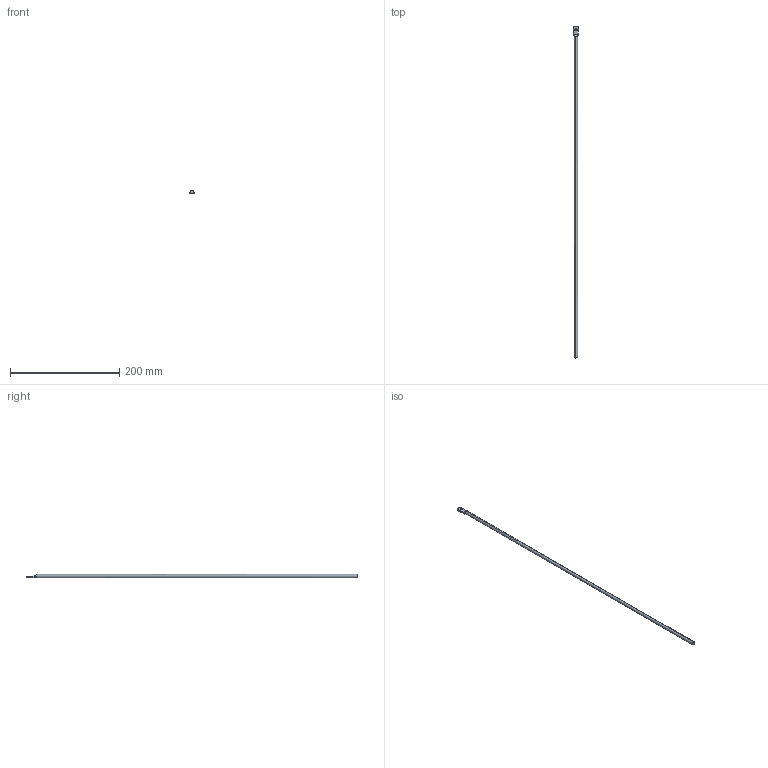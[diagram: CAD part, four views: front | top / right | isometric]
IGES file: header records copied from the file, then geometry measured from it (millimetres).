
Start section: SolidWorks IGES FILE using analytic representation for surfaces
Global section: file name: \\Ls-wvld1d\share\シブタニ\3D設計\ハンドル\EB-150-6-600\EB-150-6-600.IGS; native system: SolidWorks 2003 by SolidWorks Corporation; preprocessor: Version 5.3; author: user; date: 130729.132156; units: millimetre
Bounding box: 8.43 x 606.83 x 6 mm (x, y, z)
Surface area: 11568.8 mm2 (no closed solid volume)
Topology: 0 solids, 0 shells, 24 faces, 313 edges, 312 vertices
Faces by surface type: revolution 13, bspline 11
